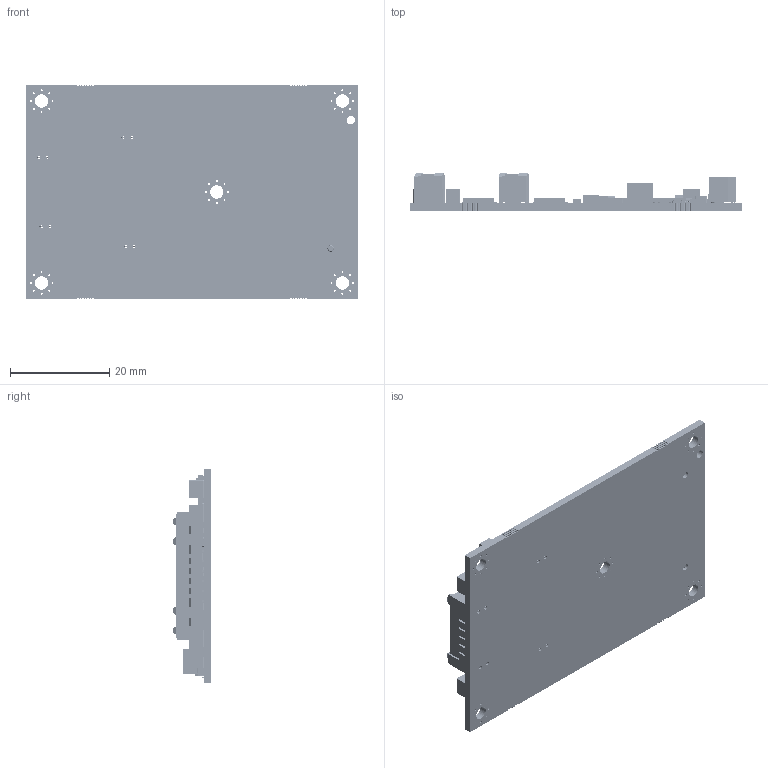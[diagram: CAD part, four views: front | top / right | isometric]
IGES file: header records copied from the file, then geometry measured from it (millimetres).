
Start section:  PTC IGES file: ESCON2_Module_60_30.igs
Global section: file name: ESCON2_Module_60_30.igs; native system: Creo Parametric by PTC Inc.; preprocessor: 2022484; author: MMAGGUKA; organization: Unknown; date: 20240307.123119; units: millimetre
Bounding box: 67 x 7.73 x 43 mm (x, y, z)
Surface area: 12891.6 mm2 (no closed solid volume)
Topology: 0 solids, 0 shells, 13829 faces, 81970 edges, 86204 vertices
Faces by surface type: bspline 7549, revolution 6163, extrusion 117
